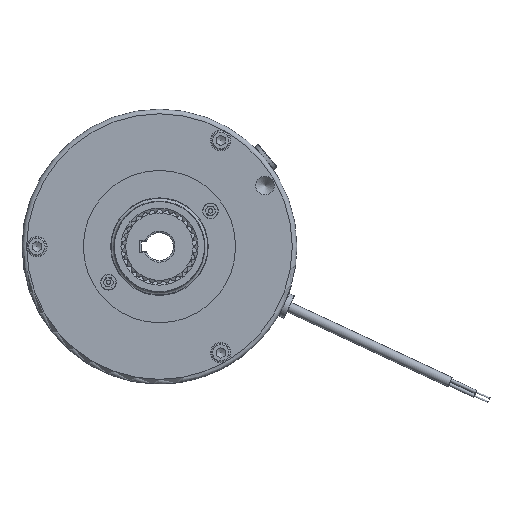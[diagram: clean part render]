
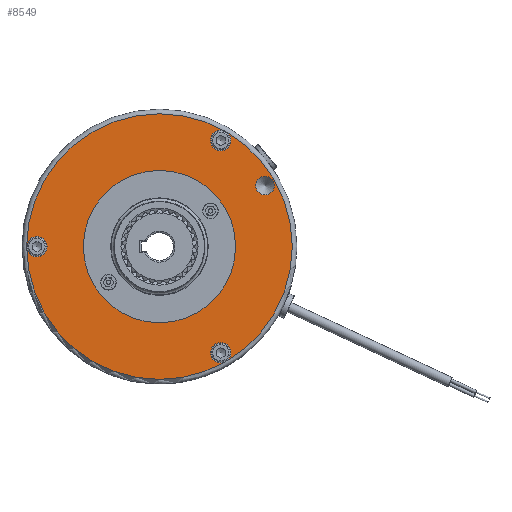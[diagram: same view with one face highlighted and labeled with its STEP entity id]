
A CAD part, left-side view. The second image highlights one B-rep face of the part: STEP entity #8549.
In plain terms, the highlighted planar face has unit normal (-1, 0, 0).
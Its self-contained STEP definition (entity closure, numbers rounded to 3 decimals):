
#172=PLANE('',#9201);
#246=FACE_BOUND('',#907,.T.);
#247=FACE_BOUND('',#908,.T.);
#248=FACE_BOUND('',#909,.T.);
#249=FACE_BOUND('',#910,.T.);
#250=FACE_BOUND('',#911,.T.);
#414=FACE_OUTER_BOUND('',#906,.T.);
#906=EDGE_LOOP('',(#5750,#5751));
#907=EDGE_LOOP('',(#5752,#5753));
#908=EDGE_LOOP('',(#5754,#5755));
#909=EDGE_LOOP('',(#5756,#5757));
#910=EDGE_LOOP('',(#5758,#5759));
#911=EDGE_LOOP('',(#5760,#5761));
#1668=CIRCLE('',#9154,5.);
#1669=CIRCLE('',#9155,5.);
#1698=CIRCLE('',#9198,71.501);
#1699=CIRCLE('',#9199,71.501);
#1700=CIRCLE('',#9202,41.);
#1701=CIRCLE('',#9203,41.);
#1702=CIRCLE('',#9204,5.5);
#1703=CIRCLE('',#9205,5.5);
#1704=CIRCLE('',#9206,5.5);
#1705=CIRCLE('',#9207,5.5);
#1706=CIRCLE('',#9208,5.5);
#1707=CIRCLE('',#9209,5.5);
#3168=VERTEX_POINT('',#13213);
#3169=VERTEX_POINT('',#13214);
#3190=VERTEX_POINT('',#13285);
#3191=VERTEX_POINT('',#13287);
#3192=VERTEX_POINT('',#13292);
#3193=VERTEX_POINT('',#13293);
#3194=VERTEX_POINT('',#13296);
#3195=VERTEX_POINT('',#13297);
#3196=VERTEX_POINT('',#13300);
#3197=VERTEX_POINT('',#13301);
#3198=VERTEX_POINT('',#13304);
#3199=VERTEX_POINT('',#13305);
#4120=EDGE_CURVE('',#3168,#3169,#1668,.T.);
#4121=EDGE_CURVE('',#3169,#3168,#1669,.T.);
#4157=EDGE_CURVE('',#3190,#3191,#1698,.T.);
#4158=EDGE_CURVE('',#3191,#3190,#1699,.T.);
#4159=EDGE_CURVE('',#3192,#3193,#1700,.T.);
#4160=EDGE_CURVE('',#3193,#3192,#1701,.T.);
#4161=EDGE_CURVE('',#3194,#3195,#1702,.T.);
#4162=EDGE_CURVE('',#3195,#3194,#1703,.T.);
#4163=EDGE_CURVE('',#3196,#3197,#1704,.T.);
#4164=EDGE_CURVE('',#3197,#3196,#1705,.T.);
#4165=EDGE_CURVE('',#3198,#3199,#1706,.T.);
#4166=EDGE_CURVE('',#3199,#3198,#1707,.T.);
#5750=ORIENTED_EDGE('',*,*,#4158,.F.);
#5751=ORIENTED_EDGE('',*,*,#4157,.F.);
#5752=ORIENTED_EDGE('',*,*,#4120,.T.);
#5753=ORIENTED_EDGE('',*,*,#4121,.T.);
#5754=ORIENTED_EDGE('',*,*,#4159,.T.);
#5755=ORIENTED_EDGE('',*,*,#4160,.T.);
#5756=ORIENTED_EDGE('',*,*,#4161,.T.);
#5757=ORIENTED_EDGE('',*,*,#4162,.T.);
#5758=ORIENTED_EDGE('',*,*,#4163,.T.);
#5759=ORIENTED_EDGE('',*,*,#4164,.T.);
#5760=ORIENTED_EDGE('',*,*,#4165,.T.);
#5761=ORIENTED_EDGE('',*,*,#4166,.T.);
#8549=ADVANCED_FACE('',(#414,#246,#247,#248,#249,#250),#172,.T.);
#9154=AXIS2_PLACEMENT_3D('',#13215,#10506,#10507);
#9155=AXIS2_PLACEMENT_3D('',#13216,#10508,#10509);
#9198=AXIS2_PLACEMENT_3D('',#13288,#10601,#10602);
#9199=AXIS2_PLACEMENT_3D('',#13289,#10603,#10604);
#9201=AXIS2_PLACEMENT_3D('',#13291,#10607,#10608);
#9202=AXIS2_PLACEMENT_3D('',#13294,#10609,#10610);
#9203=AXIS2_PLACEMENT_3D('',#13295,#10611,#10612);
#9204=AXIS2_PLACEMENT_3D('',#13298,#10613,#10614);
#9205=AXIS2_PLACEMENT_3D('',#13299,#10615,#10616);
#9206=AXIS2_PLACEMENT_3D('',#13302,#10617,#10618);
#9207=AXIS2_PLACEMENT_3D('',#13303,#10619,#10620);
#9208=AXIS2_PLACEMENT_3D('',#13306,#10621,#10622);
#9209=AXIS2_PLACEMENT_3D('',#13307,#10623,#10624);
#10506=DIRECTION('center_axis',(1.,0.,0.));
#10507=DIRECTION('ref_axis',(0.,0.,1.));
#10508=DIRECTION('center_axis',(1.,0.,0.));
#10509=DIRECTION('ref_axis',(0.,0.,1.));
#10601=DIRECTION('center_axis',(1.,0.,0.));
#10602=DIRECTION('ref_axis',(0.,-1.,0.));
#10603=DIRECTION('center_axis',(1.,0.,0.));
#10604=DIRECTION('ref_axis',(0.,-1.,0.));
#10607=DIRECTION('center_axis',(-1.,0.,0.));
#10608=DIRECTION('ref_axis',(0.,0.,1.));
#10609=DIRECTION('center_axis',(1.,0.,0.));
#10610=DIRECTION('ref_axis',(0.,1.,0.));
#10611=DIRECTION('center_axis',(1.,0.,0.));
#10612=DIRECTION('ref_axis',(0.,1.,0.));
#10613=DIRECTION('center_axis',(1.,0.,0.));
#10614=DIRECTION('ref_axis',(0.,0.,1.));
#10615=DIRECTION('center_axis',(1.,0.,0.));
#10616=DIRECTION('ref_axis',(0.,0.,1.));
#10617=DIRECTION('center_axis',(1.,0.,0.));
#10618=DIRECTION('ref_axis',(0.,0.,1.));
#10619=DIRECTION('center_axis',(1.,0.,0.));
#10620=DIRECTION('ref_axis',(0.,0.,1.));
#10621=DIRECTION('center_axis',(1.,0.,0.));
#10622=DIRECTION('ref_axis',(0.,0.,1.));
#10623=DIRECTION('center_axis',(1.,0.,0.));
#10624=DIRECTION('ref_axis',(0.,0.,1.));
#13213=CARTESIAN_POINT('',(-56.9,-56.811,37.8));
#13214=CARTESIAN_POINT('',(-56.9,-56.811,27.8));
#13215=CARTESIAN_POINT('Origin',(-56.9,-56.811,32.8));
#13216=CARTESIAN_POINT('Origin',(-56.9,-56.811,32.8));
#13285=CARTESIAN_POINT('',(-56.9,0.,71.501));
#13287=CARTESIAN_POINT('',(-56.9,71.501,0.));
#13288=CARTESIAN_POINT('Origin',(-56.9,0.,0.));
#13289=CARTESIAN_POINT('Origin',(-56.9,0.,0.));
#13291=CARTESIAN_POINT('Origin',(-56.9,57.5,0.));
#13292=CARTESIAN_POINT('',(-56.9,41.,0.));
#13293=CARTESIAN_POINT('',(-56.9,-41.,0.));
#13294=CARTESIAN_POINT('Origin',(-56.9,0.,0.));
#13295=CARTESIAN_POINT('Origin',(-56.9,0.,0.));
#13296=CARTESIAN_POINT('',(-56.9,66.,5.5));
#13297=CARTESIAN_POINT('',(-56.9,66.,-5.5));
#13298=CARTESIAN_POINT('Origin',(-56.9,66.,0.));
#13299=CARTESIAN_POINT('Origin',(-56.9,66.,0.));
#13300=CARTESIAN_POINT('',(-56.9,-33.,-51.658));
#13301=CARTESIAN_POINT('',(-56.9,-33.,-62.658));
#13302=CARTESIAN_POINT('Origin',(-56.9,-33.,-57.158));
#13303=CARTESIAN_POINT('Origin',(-56.9,-33.,-57.158));
#13304=CARTESIAN_POINT('',(-56.9,-33.,62.658));
#13305=CARTESIAN_POINT('',(-56.9,-33.,51.658));
#13306=CARTESIAN_POINT('Origin',(-56.9,-33.,57.158));
#13307=CARTESIAN_POINT('Origin',(-56.9,-33.,57.158));
